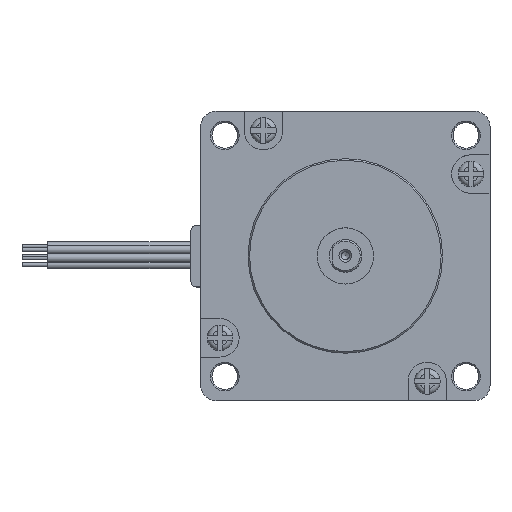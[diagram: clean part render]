
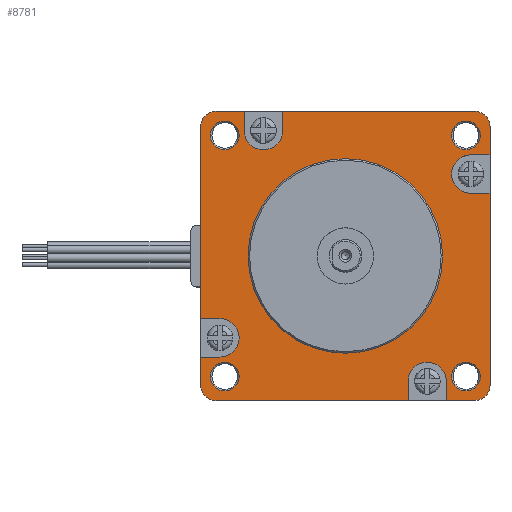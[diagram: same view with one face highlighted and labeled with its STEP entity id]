
A CAD part, top view. The second image highlights one B-rep face of the part: STEP entity #8781.
In plain terms, the highlighted planar face has unit normal (0, 0, 1).
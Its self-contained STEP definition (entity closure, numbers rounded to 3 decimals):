
#397=CIRCLE('',#9301,3.75);
#399=CIRCLE('',#9310,3.75);
#401=CIRCLE('',#9318,3.75);
#402=CIRCLE('',#9322,3.);
#403=CIRCLE('',#9323,3.);
#404=CIRCLE('',#9324,3.);
#405=CIRCLE('',#9325,3.75);
#406=CIRCLE('',#9326,3.);
#407=CIRCLE('',#9327,2.8);
#408=CIRCLE('',#9328,2.8);
#409=CIRCLE('',#9329,19.);
#410=CIRCLE('',#9330,2.8);
#411=CIRCLE('',#9331,2.8);
#816=FACE_BOUND('',#1771,.T.);
#817=FACE_BOUND('',#1772,.T.);
#818=FACE_BOUND('',#1773,.T.);
#819=FACE_BOUND('',#1774,.T.);
#820=FACE_BOUND('',#1775,.T.);
#1203=FACE_OUTER_BOUND('',#1770,.T.);
#1770=EDGE_LOOP('',(#7518,#7519,#7520,#7521,#7522,#7523,#7524,#7525,#7526,
#7527,#7528,#7529,#7530,#7531,#7532,#7533,#7534,#7535,#7536,#7537,#7538,
#7539,#7540,#7541));
#1771=EDGE_LOOP('',(#7542));
#1772=EDGE_LOOP('',(#7543));
#1773=EDGE_LOOP('',(#7544));
#1774=EDGE_LOOP('',(#7545));
#1775=EDGE_LOOP('',(#7546));
#2529=LINE('',#15145,#3361);
#2533=LINE('',#15152,#3365);
#2535=LINE('',#15157,#3367);
#2541=LINE('',#15166,#3373);
#2545=LINE('',#15182,#3377);
#2549=LINE('',#15189,#3381);
#2551=LINE('',#15194,#3383);
#2557=LINE('',#15203,#3389);
#2560=LINE('',#15211,#3392);
#2564=LINE('',#15223,#3396);
#2567=LINE('',#15230,#3399);
#2568=LINE('',#15232,#3400);
#2569=LINE('',#15237,#3401);
#2570=LINE('',#15239,#3402);
#2571=LINE('',#15243,#3403);
#2572=LINE('',#15245,#3404);
#3361=VECTOR('',#10916,3.75);
#3365=VECTOR('',#10922,3.75);
#3367=VECTOR('',#10928,37.5);
#3373=VECTOR('',#10934,5.5);
#3377=VECTOR('',#10950,3.75);
#3381=VECTOR('',#10956,3.75);
#3383=VECTOR('',#10962,37.5);
#3389=VECTOR('',#10968,5.5);
#3392=VECTOR('',#10973,3.75);
#3396=VECTOR('',#10985,3.75);
#3399=VECTOR('',#10994,37.5);
#3400=VECTOR('',#10995,5.5);
#3401=VECTOR('',#11000,37.5);
#3402=VECTOR('',#11001,3.75);
#3403=VECTOR('',#11004,3.75);
#3404=VECTOR('',#11005,5.5);
#4246=VERTEX_POINT('',#15136);
#4247=VERTEX_POINT('',#15138);
#4249=VERTEX_POINT('',#15144);
#4251=VERTEX_POINT('',#15150);
#4252=VERTEX_POINT('',#15156);
#4255=VERTEX_POINT('',#15164);
#4258=VERTEX_POINT('',#15173);
#4259=VERTEX_POINT('',#15175);
#4261=VERTEX_POINT('',#15181);
#4263=VERTEX_POINT('',#15187);
#4264=VERTEX_POINT('',#15193);
#4267=VERTEX_POINT('',#15201);
#4270=VERTEX_POINT('',#15208);
#4271=VERTEX_POINT('',#15210);
#4273=VERTEX_POINT('',#15216);
#4275=VERTEX_POINT('',#15222);
#4276=VERTEX_POINT('',#15228);
#4277=VERTEX_POINT('',#15231);
#4278=VERTEX_POINT('',#15234);
#4279=VERTEX_POINT('',#15236);
#4280=VERTEX_POINT('',#15238);
#4281=VERTEX_POINT('',#15240);
#4282=VERTEX_POINT('',#15242);
#4283=VERTEX_POINT('',#15244);
#4284=VERTEX_POINT('',#15247);
#4285=VERTEX_POINT('',#15249);
#4286=VERTEX_POINT('',#15251);
#4287=VERTEX_POINT('',#15253);
#4288=VERTEX_POINT('',#15255);
#5357=EDGE_CURVE('',#4247,#4246,#397,.T.);
#5360=EDGE_CURVE('',#4249,#4247,#2529,.T.);
#5364=EDGE_CURVE('',#4246,#4251,#2533,.T.);
#5366=EDGE_CURVE('',#4249,#4252,#2535,.T.);
#5372=EDGE_CURVE('',#4255,#4251,#2541,.T.);
#5375=EDGE_CURVE('',#4259,#4258,#399,.T.);
#5378=EDGE_CURVE('',#4261,#4259,#2545,.T.);
#5382=EDGE_CURVE('',#4258,#4263,#2549,.T.);
#5384=EDGE_CURVE('',#4261,#4264,#2551,.T.);
#5390=EDGE_CURVE('',#4267,#4263,#2557,.T.);
#5393=EDGE_CURVE('',#4271,#4270,#2560,.T.);
#5396=EDGE_CURVE('',#4273,#4271,#401,.T.);
#5399=EDGE_CURVE('',#4275,#4273,#2564,.T.);
#5402=EDGE_CURVE('',#4276,#4255,#402,.T.);
#5403=EDGE_CURVE('',#4275,#4276,#2567,.T.);
#5404=EDGE_CURVE('',#4277,#4270,#2568,.T.);
#5405=EDGE_CURVE('',#4264,#4277,#403,.T.);
#5406=EDGE_CURVE('',#4278,#4267,#404,.T.);
#5407=EDGE_CURVE('',#4279,#4278,#2569,.T.);
#5408=EDGE_CURVE('',#4279,#4280,#2570,.T.);
#5409=EDGE_CURVE('',#4280,#4281,#405,.T.);
#5410=EDGE_CURVE('',#4281,#4282,#2571,.T.);
#5411=EDGE_CURVE('',#4283,#4282,#2572,.T.);
#5412=EDGE_CURVE('',#4252,#4283,#406,.T.);
#5413=EDGE_CURVE('',#4284,#4284,#407,.T.);
#5414=EDGE_CURVE('',#4285,#4285,#408,.T.);
#5415=EDGE_CURVE('',#4286,#4286,#409,.T.);
#5416=EDGE_CURVE('',#4287,#4287,#410,.T.);
#5417=EDGE_CURVE('',#4288,#4288,#411,.T.);
#7518=ORIENTED_EDGE('',*,*,#5364,.T.);
#7519=ORIENTED_EDGE('',*,*,#5372,.F.);
#7520=ORIENTED_EDGE('',*,*,#5402,.F.);
#7521=ORIENTED_EDGE('',*,*,#5403,.F.);
#7522=ORIENTED_EDGE('',*,*,#5399,.T.);
#7523=ORIENTED_EDGE('',*,*,#5396,.T.);
#7524=ORIENTED_EDGE('',*,*,#5393,.T.);
#7525=ORIENTED_EDGE('',*,*,#5404,.F.);
#7526=ORIENTED_EDGE('',*,*,#5405,.F.);
#7527=ORIENTED_EDGE('',*,*,#5384,.F.);
#7528=ORIENTED_EDGE('',*,*,#5378,.T.);
#7529=ORIENTED_EDGE('',*,*,#5375,.T.);
#7530=ORIENTED_EDGE('',*,*,#5382,.T.);
#7531=ORIENTED_EDGE('',*,*,#5390,.F.);
#7532=ORIENTED_EDGE('',*,*,#5406,.F.);
#7533=ORIENTED_EDGE('',*,*,#5407,.F.);
#7534=ORIENTED_EDGE('',*,*,#5408,.T.);
#7535=ORIENTED_EDGE('',*,*,#5409,.T.);
#7536=ORIENTED_EDGE('',*,*,#5410,.T.);
#7537=ORIENTED_EDGE('',*,*,#5411,.F.);
#7538=ORIENTED_EDGE('',*,*,#5412,.F.);
#7539=ORIENTED_EDGE('',*,*,#5366,.F.);
#7540=ORIENTED_EDGE('',*,*,#5360,.T.);
#7541=ORIENTED_EDGE('',*,*,#5357,.T.);
#7542=ORIENTED_EDGE('',*,*,#5413,.F.);
#7543=ORIENTED_EDGE('',*,*,#5414,.F.);
#7544=ORIENTED_EDGE('',*,*,#5415,.T.);
#7545=ORIENTED_EDGE('',*,*,#5416,.F.);
#7546=ORIENTED_EDGE('',*,*,#5417,.F.);
#8347=PLANE('',#9321);
#8781=ADVANCED_FACE('',(#1203,#816,#817,#818,#819,#820),#8347,.T.);
#9301=AXIS2_PLACEMENT_3D('',#15139,#10910,#10911);
#9310=AXIS2_PLACEMENT_3D('',#15176,#10944,#10945);
#9318=AXIS2_PLACEMENT_3D('',#15217,#10979,#10980);
#9321=AXIS2_PLACEMENT_3D('',#15227,#10990,#10991);
#9322=AXIS2_PLACEMENT_3D('',#15229,#10992,#10993);
#9323=AXIS2_PLACEMENT_3D('',#15233,#10996,#10997);
#9324=AXIS2_PLACEMENT_3D('',#15235,#10998,#10999);
#9325=AXIS2_PLACEMENT_3D('',#15241,#11002,#11003);
#9326=AXIS2_PLACEMENT_3D('',#15246,#11006,#11007);
#9327=AXIS2_PLACEMENT_3D('',#15248,#11008,#11009);
#9328=AXIS2_PLACEMENT_3D('',#15250,#11010,#11011);
#9329=AXIS2_PLACEMENT_3D('',#15252,#11012,#11013);
#9330=AXIS2_PLACEMENT_3D('',#15254,#11014,#11015);
#9331=AXIS2_PLACEMENT_3D('',#15256,#11016,#11017);
#10910=DIRECTION('center_axis',(0.,0.,-1.));
#10911=DIRECTION('ref_axis',(-1.,0.,0.));
#10916=DIRECTION('',(0.,-1.,0.));
#10922=DIRECTION('',(0.,1.,0.));
#10928=DIRECTION('',(1.,0.,0.));
#10934=DIRECTION('',(1.,0.,0.));
#10944=DIRECTION('center_axis',(0.,0.,-1.));
#10945=DIRECTION('ref_axis',(1.,0.,0.));
#10950=DIRECTION('',(0.,1.,0.));
#10956=DIRECTION('',(0.,-1.,0.));
#10962=DIRECTION('',(-1.,0.,0.));
#10968=DIRECTION('',(-1.,0.,0.));
#10973=DIRECTION('',(-1.,0.,0.));
#10979=DIRECTION('center_axis',(0.,0.,-1.));
#10980=DIRECTION('ref_axis',(0.,-1.,0.));
#10985=DIRECTION('',(1.,0.,0.));
#10990=DIRECTION('center_axis',(0.,0.,1.));
#10991=DIRECTION('ref_axis',(1.,0.,0.));
#10992=DIRECTION('center_axis',(0.,0.,-1.));
#10993=DIRECTION('ref_axis',(-0.707,0.707,0.));
#10994=DIRECTION('',(0.,1.,0.));
#10995=DIRECTION('',(0.,1.,0.));
#10996=DIRECTION('center_axis',(0.,0.,-1.));
#10997=DIRECTION('ref_axis',(-0.707,-0.707,0.));
#10998=DIRECTION('center_axis',(0.,0.,-1.));
#10999=DIRECTION('ref_axis',(0.707,-0.707,0.));
#11000=DIRECTION('',(0.,-1.,0.));
#11001=DIRECTION('',(-1.,0.,0.));
#11002=DIRECTION('center_axis',(0.,0.,-1.));
#11003=DIRECTION('ref_axis',(0.,1.,0.));
#11004=DIRECTION('',(1.,0.,0.));
#11005=DIRECTION('',(0.,-1.,0.));
#11006=DIRECTION('center_axis',(0.,0.,-1.));
#11007=DIRECTION('ref_axis',(0.707,0.707,0.));
#11008=DIRECTION('center_axis',(0.,0.,1.));
#11009=DIRECTION('ref_axis',(-1.,0.,0.));
#11010=DIRECTION('center_axis',(0.,0.,1.));
#11011=DIRECTION('ref_axis',(-1.,0.,0.));
#11012=DIRECTION('center_axis',(0.,0.,-1.));
#11013=DIRECTION('ref_axis',(-1.,0.,0.));
#11014=DIRECTION('center_axis',(0.,0.,1.));
#11015=DIRECTION('ref_axis',(-1.,0.,0.));
#11016=DIRECTION('center_axis',(0.,0.,1.));
#11017=DIRECTION('ref_axis',(-1.,0.,0.));
#15136=CARTESIAN_POINT('',(8.5,52.75,9.));
#15138=CARTESIAN_POINT('',(16.,52.75,9.));
#15139=CARTESIAN_POINT('Origin',(12.25,52.75,9.));
#15144=CARTESIAN_POINT('',(16.,56.5,9.));
#15145=CARTESIAN_POINT('',(16.,40.5,9.));
#15150=CARTESIAN_POINT('',(8.5,56.5,9.));
#15152=CARTESIAN_POINT('',(8.5,42.375,9.));
#15156=CARTESIAN_POINT('',(53.5,56.5,9.));
#15157=CARTESIAN_POINT('',(56.5,56.5,9.));
#15164=CARTESIAN_POINT('',(3.,56.5,9.));
#15166=CARTESIAN_POINT('',(56.5,56.5,9.));
#15173=CARTESIAN_POINT('',(48.,3.75,9.));
#15175=CARTESIAN_POINT('',(40.5,3.75,9.));
#15176=CARTESIAN_POINT('Origin',(44.25,3.75,9.));
#15181=CARTESIAN_POINT('',(40.5,0.,9.));
#15182=CARTESIAN_POINT('',(40.5,16.,9.));
#15187=CARTESIAN_POINT('',(48.,0.,9.));
#15189=CARTESIAN_POINT('',(48.,14.125,9.));
#15193=CARTESIAN_POINT('',(3.,0.,9.));
#15194=CARTESIAN_POINT('',(0.,0.,9.));
#15201=CARTESIAN_POINT('',(53.5,0.,9.));
#15203=CARTESIAN_POINT('',(0.,0.,9.));
#15208=CARTESIAN_POINT('',(0.,8.5,9.));
#15210=CARTESIAN_POINT('',(3.75,8.5,9.));
#15211=CARTESIAN_POINT('',(14.125,8.5,9.));
#15216=CARTESIAN_POINT('',(3.75,16.,9.));
#15217=CARTESIAN_POINT('Origin',(3.75,12.25,9.));
#15222=CARTESIAN_POINT('',(0.,16.,9.));
#15223=CARTESIAN_POINT('',(16.,16.,9.));
#15227=CARTESIAN_POINT('Origin',(28.25,28.25,9.));
#15228=CARTESIAN_POINT('',(0.,53.5,9.));
#15229=CARTESIAN_POINT('Origin',(3.,53.5,9.));
#15230=CARTESIAN_POINT('',(0.,56.5,9.));
#15231=CARTESIAN_POINT('',(0.,3.,9.));
#15232=CARTESIAN_POINT('',(0.,56.5,9.));
#15233=CARTESIAN_POINT('Origin',(3.,3.,9.));
#15234=CARTESIAN_POINT('',(56.5,3.,9.));
#15235=CARTESIAN_POINT('Origin',(53.5,3.,9.));
#15236=CARTESIAN_POINT('',(56.5,40.5,9.));
#15237=CARTESIAN_POINT('',(56.5,0.,9.));
#15238=CARTESIAN_POINT('',(52.75,40.5,9.));
#15239=CARTESIAN_POINT('',(40.5,40.5,9.));
#15240=CARTESIAN_POINT('',(52.75,48.,9.));
#15241=CARTESIAN_POINT('Origin',(52.75,44.25,9.));
#15242=CARTESIAN_POINT('',(56.5,48.,9.));
#15243=CARTESIAN_POINT('',(42.375,48.,9.));
#15244=CARTESIAN_POINT('',(56.5,53.5,9.));
#15245=CARTESIAN_POINT('',(56.5,0.,9.));
#15246=CARTESIAN_POINT('Origin',(53.5,53.5,9.));
#15247=CARTESIAN_POINT('',(54.6,51.8,9.));
#15248=CARTESIAN_POINT('Origin',(51.8,51.8,9.));
#15249=CARTESIAN_POINT('',(7.5,4.7,9.));
#15250=CARTESIAN_POINT('Origin',(4.7,4.7,9.));
#15251=CARTESIAN_POINT('',(47.25,28.25,9.));
#15252=CARTESIAN_POINT('Origin',(28.25,28.25,9.));
#15253=CARTESIAN_POINT('',(7.5,51.8,9.));
#15254=CARTESIAN_POINT('Origin',(4.7,51.8,9.));
#15255=CARTESIAN_POINT('',(54.6,4.7,9.));
#15256=CARTESIAN_POINT('Origin',(51.8,4.7,9.));
